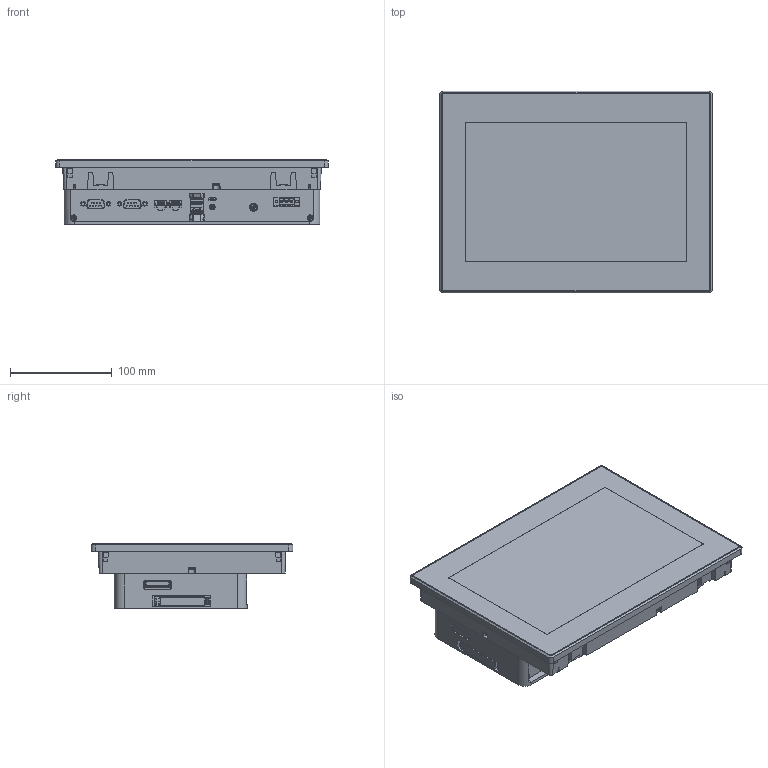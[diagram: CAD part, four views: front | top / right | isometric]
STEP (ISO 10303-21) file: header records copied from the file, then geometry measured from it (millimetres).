
FILE_DESCRIPTION(/* description */ (''),/* implementation_level */ '2;1');
FILE_NAME(/* name */ 'HMI_10W_WXGA_DC_3D-simpl.stp',/* time_stamp */ '2025-10-20T12:40:22+02:00',/* author */ (''),/* organization */ (''),/* preprocessor_version */ 'ST-DEVELOPER v16.7',/* originating_system */ 'SIEMENS PLM Software NX 12.0',/* authorisation */ '');
FILE_SCHEMA (('AUTOMOTIVE_DESIGN { 1 0 10303 214 3 1 1 1 }'));
Products named in the file (1): HMI_10W_WXGA_DC_3D-simpl_step
Bounding box: 268.5 x 198.5 x 64.28 mm (x, y, z)
Volume: 2230707.6 mm3; surface area: 297458.1 mm2
Topology: 3 solids, 8 shells, 2456 faces, 6742 edges, 4358 vertices
Faces by surface type: plane 1481, cylinder 608, cone 166, bspline 153, torus 30, sphere 18
Full cylindrical faces by diameter (mm): 0.99 x18, 2.5 x4, 2.55 x8, 2.8 x2, 2.845 x4, 4.3 x4, 4.5 x1, 5.6 x11, 6 x6, 8 x1, 8.454 x6, 41.07 x1
Entity records: 87926 total; most frequent: CARTESIAN_POINT 28396, ORIENTED_EDGE 13024, DIRECTION 11133, EDGE_CURVE 6512, VERTEX_POINT 4307, LINE 4265, VECTOR 4265, AXIS2_PLACEMENT_3D 3434
